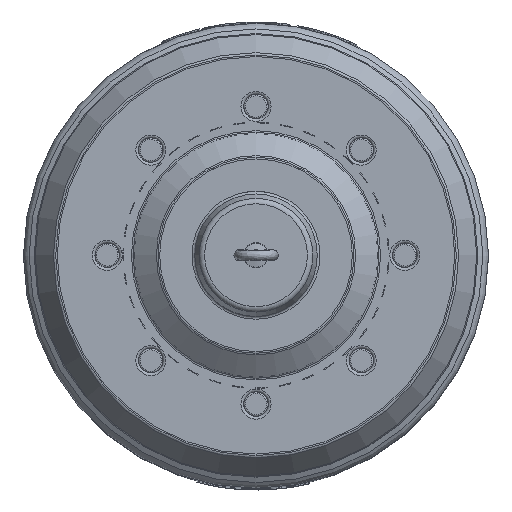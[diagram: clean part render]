
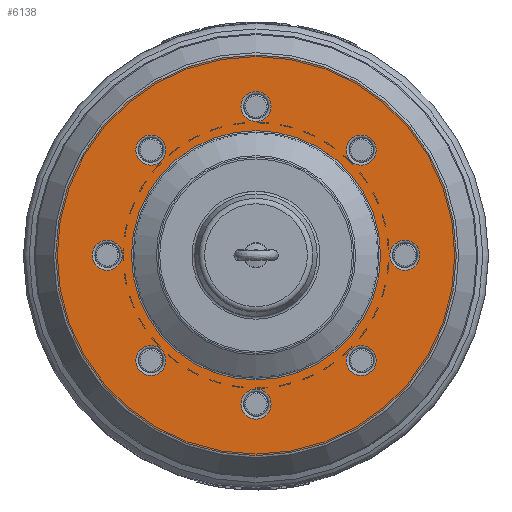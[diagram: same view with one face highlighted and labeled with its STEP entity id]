
A CAD part, top view. The second image highlights one B-rep face of the part: STEP entity #6138.
In plain terms, the highlighted planar face has unit normal (0, 0, 1).
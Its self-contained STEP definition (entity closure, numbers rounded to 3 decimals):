
#6138=ADVANCED_FACE('',(#24181,#24183,#24185,#24187,#24189,#24191,#24193,#24195,
#24197,#24199),#24201,.T.);
#24181=FACE_BOUND('',#24182,.T.);
#24182=EDGE_LOOP('',(#95444));
#24183=FACE_BOUND('',#24184,.T.);
#24184=EDGE_LOOP('',(#95445));
#24185=FACE_BOUND('',#24186,.T.);
#24186=EDGE_LOOP('',(#95446));
#24187=FACE_BOUND('',#24188,.T.);
#24188=EDGE_LOOP('',(#95447));
#24189=FACE_BOUND('',#24190,.T.);
#24190=EDGE_LOOP('',(#95448));
#24191=FACE_BOUND('',#24192,.T.);
#24192=EDGE_LOOP('',(#95449));
#24193=FACE_BOUND('',#24194,.T.);
#24194=EDGE_LOOP('',(#95450));
#24195=FACE_BOUND('',#24196,.T.);
#24196=EDGE_LOOP('',(#95451));
#24197=FACE_BOUND('',#24198,.T.);
#24198=EDGE_LOOP('',(#95452));
#24199=FACE_BOUND('',#24200,.T.);
#24200=EDGE_LOOP('',(#95453));
#24201=PLANE('',#24202);
#24202=AXIS2_PLACEMENT_3D('',#24203,#24204,#24205);
#24203=CARTESIAN_POINT('',(0.,0.,50.));
#24204=DIRECTION('',(0.,0.,1.));
#24205=DIRECTION('',(-1.,0.,0.));
#95444=ORIENTED_EDGE('',*,*,#101487,.F.);
#95445=ORIENTED_EDGE('',*,*,#101488,.F.);
#95446=ORIENTED_EDGE('',*,*,#101489,.F.);
#95447=ORIENTED_EDGE('',*,*,#101490,.F.);
#95448=ORIENTED_EDGE('',*,*,#101491,.F.);
#95449=ORIENTED_EDGE('',*,*,#101485,.T.);
#95450=ORIENTED_EDGE('',*,*,#101492,.F.);
#95451=ORIENTED_EDGE('',*,*,#101493,.F.);
#95452=ORIENTED_EDGE('',*,*,#101494,.F.);
#95453=ORIENTED_EDGE('',*,*,#101495,.F.);
#101485=EDGE_CURVE('',#107256,#107256,#107257,.T.);
#101487=EDGE_CURVE('',#107260,#107260,#107261,.T.);
#101488=EDGE_CURVE('',#107262,#107262,#107263,.F.);
#101489=EDGE_CURVE('',#107264,#107264,#107265,.F.);
#101490=EDGE_CURVE('',#107266,#107266,#107267,.F.);
#101491=EDGE_CURVE('',#107268,#107268,#107269,.F.);
#101492=EDGE_CURVE('',#107270,#107270,#107271,.F.);
#101493=EDGE_CURVE('',#107272,#107272,#107273,.F.);
#101494=EDGE_CURVE('',#107274,#107274,#107275,.F.);
#101495=EDGE_CURVE('',#107276,#107276,#107277,.F.);
#107256=VERTEX_POINT('',#141076);
#107257=CIRCLE('',#141077,174.113);
#107260=VERTEX_POINT('',#141086);
#107261=CIRCLE('',#141087,279.909);
#107262=VERTEX_POINT('',#141091);
#107263=CIRCLE('',#141092,21.001);
#107264=VERTEX_POINT('',#141096);
#107265=CIRCLE('',#141097,21.001);
#107266=VERTEX_POINT('',#141101);
#107267=CIRCLE('',#141102,21.001);
#107268=VERTEX_POINT('',#141106);
#107269=CIRCLE('',#141107,21.001);
#107270=VERTEX_POINT('',#141111);
#107271=CIRCLE('',#141112,21.001);
#107272=VERTEX_POINT('',#141116);
#107273=CIRCLE('',#141117,21.001);
#107274=VERTEX_POINT('',#141121);
#107275=CIRCLE('',#141122,21.001);
#107276=VERTEX_POINT('',#141126);
#107277=CIRCLE('',#141127,21.001);
#141076=CARTESIAN_POINT('',(-174.113,0.,50.));
#141077=AXIS2_PLACEMENT_3D('',#141078,#141079,#141080);
#141078=CARTESIAN_POINT('',(0.,0.,50.));
#141079=DIRECTION('',(0.,0.,-1.));
#141080=DIRECTION('',(-1.,0.,0.));
#141086=CARTESIAN_POINT('',(-279.909,0.,50.));
#141087=AXIS2_PLACEMENT_3D('',#141088,#141089,#141090);
#141088=CARTESIAN_POINT('',(0.,0.,50.));
#141089=DIRECTION('',(0.,0.,-1.));
#141090=DIRECTION('',(-1.,0.,0.));
#141091=CARTESIAN_POINT('',(-229.001,0.,50.));
#141092=AXIS2_PLACEMENT_3D('',#141093,#141094,#141095);
#141093=CARTESIAN_POINT('',(-208.,0.,50.));
#141094=DIRECTION('',(0.,0.,-1.));
#141095=DIRECTION('',(-1.,0.,0.));
#141096=CARTESIAN_POINT('',(-161.928,161.928,50.));
#141097=AXIS2_PLACEMENT_3D('',#141098,#141099,#141100);
#141098=CARTESIAN_POINT('',(-147.078,147.078,50.));
#141099=DIRECTION('',(0.,0.,-1.));
#141100=DIRECTION('',(-0.707,0.707,0.));
#141101=CARTESIAN_POINT('',(161.928,161.928,50.));
#141102=AXIS2_PLACEMENT_3D('',#141103,#141104,#141105);
#141103=CARTESIAN_POINT('',(147.078,147.078,50.));
#141104=DIRECTION('',(0.,0.,-1.));
#141105=DIRECTION('',(0.707,0.707,0.));
#141106=CARTESIAN_POINT('',(161.928,-161.928,50.));
#141107=AXIS2_PLACEMENT_3D('',#141108,#141109,#141110);
#141108=CARTESIAN_POINT('',(147.078,-147.078,50.));
#141109=DIRECTION('',(0.,0.,-1.));
#141110=DIRECTION('',(0.707,-0.707,0.));
#141111=CARTESIAN_POINT('',(0.,-229.001,50.));
#141112=AXIS2_PLACEMENT_3D('',#141113,#141114,#141115);
#141113=CARTESIAN_POINT('',(0.,-208.,50.));
#141114=DIRECTION('',(0.,0.,-1.));
#141115=DIRECTION('',(0.,-1.,0.));
#141116=CARTESIAN_POINT('',(229.001,0.,50.));
#141117=AXIS2_PLACEMENT_3D('',#141118,#141119,#141120);
#141118=CARTESIAN_POINT('',(208.,0.,50.));
#141119=DIRECTION('',(0.,0.,-1.));
#141120=DIRECTION('',(1.,0.,0.));
#141121=CARTESIAN_POINT('',(0.,229.001,50.));
#141122=AXIS2_PLACEMENT_3D('',#141123,#141124,#141125);
#141123=CARTESIAN_POINT('',(0.,208.,50.));
#141124=DIRECTION('',(0.,0.,-1.));
#141125=DIRECTION('',(0.,1.,0.));
#141126=CARTESIAN_POINT('',(-161.928,-161.928,50.));
#141127=AXIS2_PLACEMENT_3D('',#141128,#141129,#141130);
#141128=CARTESIAN_POINT('',(-147.078,-147.078,50.));
#141129=DIRECTION('',(0.,0.,-1.));
#141130=DIRECTION('',(-0.707,-0.707,0.));
